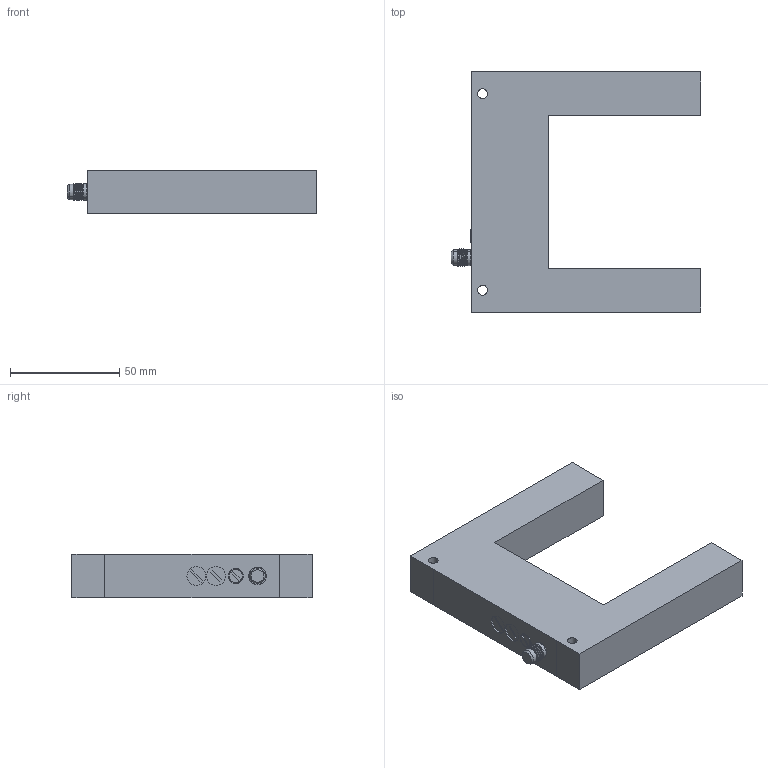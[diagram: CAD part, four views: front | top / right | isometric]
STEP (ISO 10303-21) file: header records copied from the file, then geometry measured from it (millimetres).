
FILE_DESCRIPTION(('STEP AP214'),'1');
FILE_NAME('F:/3D Modelle homepage/tmp0.step','2020-09-01T09:57:05',(' '),(' '),'Spatial InterOp 3D',' ',' ');
FILE_SCHEMA(('automotive_design'));
Length unit declared in the file: millimetre
Products named in the file (1): 1
Bounding box: 114.42 x 110 x 20 mm (x, y, z)
Volume: 132669.1 mm3; surface area: 25596.9 mm2
Topology: 1 solids, 1 shells, 86 faces, 208 edges, 135 vertices
Faces by surface type: plane 40, cylinder 36, cone 4, torus 4, bspline 2
Entity records: 5180 total; most frequent: CARTESIAN_POINT 2466, ORIENTED_EDGE 416, DIRECTION 400, EDGE_CURVE 208, AXIS2_PLACEMENT_3D 143, VERTEX_POINT 135, LINE 114, VECTOR 114
